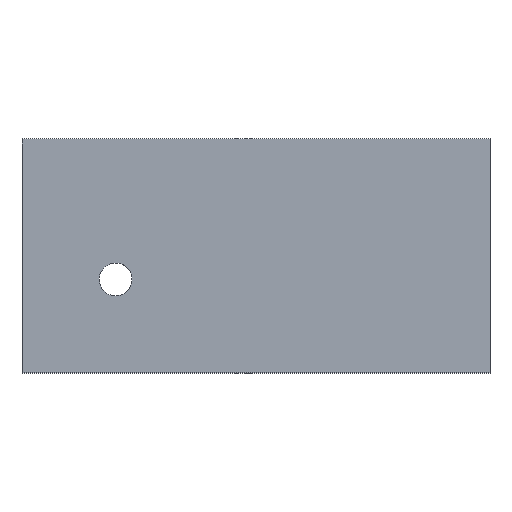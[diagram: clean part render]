
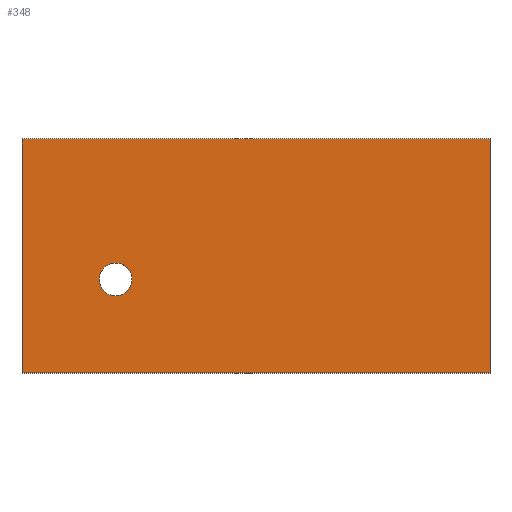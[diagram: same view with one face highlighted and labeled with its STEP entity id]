
A CAD part, top view. The second image highlights one B-rep face of the part: STEP entity #348.
In plain terms, the highlighted free-form (B-spline) face has degree [1, 1] with [2, 2] control points.
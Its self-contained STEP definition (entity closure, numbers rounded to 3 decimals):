
#42 = VERTEX_POINT('',#43);
#43 = CARTESIAN_POINT('',(0.,0.,10.));
#49 = B_SPLINE_SURFACE_WITH_KNOTS('',1,1,(
    (#50,#51)
    ,(#52,#53
    )),.UNSPECIFIED.,.F.,.F.,.F.,(2,2),(2,2),(0.,200.),(-10.,0.),
  .PIECEWISE_BEZIER_KNOTS.);
#50 = CARTESIAN_POINT('',(0.,0.,10.));
#51 = CARTESIAN_POINT('',(0.,0.,0.));
#52 = CARTESIAN_POINT('',(200.,0.,10.));
#53 = CARTESIAN_POINT('',(200.,0.,0.));
#60 = B_SPLINE_SURFACE_WITH_KNOTS('',1,1,(
    (#61,#62)
    ,(#63,#64
    )),.UNSPECIFIED.,.F.,.F.,.F.,(2,2),(2,2),(0.,100.),(-10.,0.),
  .PIECEWISE_BEZIER_KNOTS.);
#61 = CARTESIAN_POINT('',(0.,100.,10.));
#62 = CARTESIAN_POINT('',(0.,100.,0.));
#63 = CARTESIAN_POINT('',(0.,0.,10.));
#64 = CARTESIAN_POINT('',(0.,0.,0.));
#71 = EDGE_CURVE('',#42,#72,#74,.T.);
#72 = VERTEX_POINT('',#73);
#73 = CARTESIAN_POINT('',(200.,0.,10.));
#74 = SURFACE_CURVE('',#75,(#78,#84),.PCURVE_S1.);
#75 = B_SPLINE_CURVE_WITH_KNOTS('',1,(#76,#77),.UNSPECIFIED.,.F.,.F.,(2,
    2),(0.,200.),.PIECEWISE_BEZIER_KNOTS.);
#76 = CARTESIAN_POINT('',(0.,0.,10.));
#77 = CARTESIAN_POINT('',(200.,0.,10.));
#78 = PCURVE('',#49,#79);
#79 = DEFINITIONAL_REPRESENTATION('',(#80),#83);
#80 = B_SPLINE_CURVE_WITH_KNOTS('',1,(#81,#82),.UNSPECIFIED.,.F.,.F.,(2,
    2),(0.,200.),.PIECEWISE_BEZIER_KNOTS.);
#81 = CARTESIAN_POINT('',(0.,-10.));
#82 = CARTESIAN_POINT('',(200.,-10.));
#83 = ( GEOMETRIC_REPRESENTATION_CONTEXT(2) 
PARAMETRIC_REPRESENTATION_CONTEXT() REPRESENTATION_CONTEXT('2D SPACE',''
  ) );
#84 = PCURVE('',#85,#90);
#85 = B_SPLINE_SURFACE_WITH_KNOTS('',1,1,(
    (#86,#87)
    ,(#88,#89
    )),.UNSPECIFIED.,.F.,.F.,.F.,(2,2),(2,2),(-100.,100.),(-50.,50.),
  .PIECEWISE_BEZIER_KNOTS.);
#86 = CARTESIAN_POINT('',(0.,0.,10.));
#87 = CARTESIAN_POINT('',(0.,100.,10.));
#88 = CARTESIAN_POINT('',(200.,0.,10.));
#89 = CARTESIAN_POINT('',(200.,100.,10.));
#90 = DEFINITIONAL_REPRESENTATION('',(#91),#94);
#91 = B_SPLINE_CURVE_WITH_KNOTS('',1,(#92,#93),.UNSPECIFIED.,.F.,.F.,(2,
    2),(0.,200.),.PIECEWISE_BEZIER_KNOTS.);
#92 = CARTESIAN_POINT('',(-100.,-50.));
#93 = CARTESIAN_POINT('',(100.,-50.));
#94 = ( GEOMETRIC_REPRESENTATION_CONTEXT(2) 
PARAMETRIC_REPRESENTATION_CONTEXT() REPRESENTATION_CONTEXT('2D SPACE',''
  ) );
#110 = B_SPLINE_SURFACE_WITH_KNOTS('',1,1,(
    (#111,#112)
    ,(#113,#114
    )),.UNSPECIFIED.,.F.,.F.,.F.,(2,2),(2,2),(0.,100.),(-10.,0.),
  .PIECEWISE_BEZIER_KNOTS.);
#111 = CARTESIAN_POINT('',(200.,0.,10.));
#112 = CARTESIAN_POINT('',(200.,0.,0.));
#113 = CARTESIAN_POINT('',(200.,100.,10.));
#114 = CARTESIAN_POINT('',(200.,100.,0.));
#150 = VERTEX_POINT('',#151);
#151 = CARTESIAN_POINT('',(0.,100.,10.));
#163 = B_SPLINE_SURFACE_WITH_KNOTS('',1,1,(
    (#164,#165)
    ,(#166,#167
    )),.UNSPECIFIED.,.F.,.F.,.F.,(2,2),(2,2),(0.,200.),(-10.,0.),
  .PIECEWISE_BEZIER_KNOTS.);
#164 = CARTESIAN_POINT('',(200.,100.,10.));
#165 = CARTESIAN_POINT('',(200.,100.,0.));
#166 = CARTESIAN_POINT('',(0.,100.,10.));
#167 = CARTESIAN_POINT('',(0.,100.,0.));
#174 = EDGE_CURVE('',#150,#42,#175,.T.);
#175 = SURFACE_CURVE('',#176,(#179,#185),.PCURVE_S1.);
#176 = B_SPLINE_CURVE_WITH_KNOTS('',1,(#177,#178),.UNSPECIFIED.,.F.,.F.,
  (2,2),(0.,100.),.PIECEWISE_BEZIER_KNOTS.);
#177 = CARTESIAN_POINT('',(0.,100.,10.));
#178 = CARTESIAN_POINT('',(0.,0.,10.));
#179 = PCURVE('',#60,#180);
#180 = DEFINITIONAL_REPRESENTATION('',(#181),#184);
#181 = B_SPLINE_CURVE_WITH_KNOTS('',1,(#182,#183),.UNSPECIFIED.,.F.,.F.,
  (2,2),(0.,100.),.PIECEWISE_BEZIER_KNOTS.);
#182 = CARTESIAN_POINT('',(0.,-10.));
#183 = CARTESIAN_POINT('',(100.,-10.));
#184 = ( GEOMETRIC_REPRESENTATION_CONTEXT(2) 
PARAMETRIC_REPRESENTATION_CONTEXT() REPRESENTATION_CONTEXT('2D SPACE',''
  ) );
#185 = PCURVE('',#85,#186);
#186 = DEFINITIONAL_REPRESENTATION('',(#187),#190);
#187 = B_SPLINE_CURVE_WITH_KNOTS('',1,(#188,#189),.UNSPECIFIED.,.F.,.F.,
  (2,2),(0.,100.),.PIECEWISE_BEZIER_KNOTS.);
#188 = CARTESIAN_POINT('',(-100.,50.));
#189 = CARTESIAN_POINT('',(-100.,-50.));
#190 = ( GEOMETRIC_REPRESENTATION_CONTEXT(2) 
PARAMETRIC_REPRESENTATION_CONTEXT() REPRESENTATION_CONTEXT('2D SPACE',''
  ) );
#215 = EDGE_CURVE('',#72,#216,#218,.T.);
#216 = VERTEX_POINT('',#217);
#217 = CARTESIAN_POINT('',(200.,100.,10.));
#218 = SURFACE_CURVE('',#219,(#222,#228),.PCURVE_S1.);
#219 = B_SPLINE_CURVE_WITH_KNOTS('',1,(#220,#221),.UNSPECIFIED.,.F.,.F.,
  (2,2),(0.,100.),.PIECEWISE_BEZIER_KNOTS.);
#220 = CARTESIAN_POINT('',(200.,0.,10.));
#221 = CARTESIAN_POINT('',(200.,100.,10.));
#222 = PCURVE('',#110,#223);
#223 = DEFINITIONAL_REPRESENTATION('',(#224),#227);
#224 = B_SPLINE_CURVE_WITH_KNOTS('',1,(#225,#226),.UNSPECIFIED.,.F.,.F.,
  (2,2),(0.,100.),.PIECEWISE_BEZIER_KNOTS.);
#225 = CARTESIAN_POINT('',(0.,-10.));
#226 = CARTESIAN_POINT('',(100.,-10.));
#227 = ( GEOMETRIC_REPRESENTATION_CONTEXT(2) 
PARAMETRIC_REPRESENTATION_CONTEXT() REPRESENTATION_CONTEXT('2D SPACE',''
  ) );
#228 = PCURVE('',#85,#229);
#229 = DEFINITIONAL_REPRESENTATION('',(#230),#233);
#230 = B_SPLINE_CURVE_WITH_KNOTS('',1,(#231,#232),.UNSPECIFIED.,.F.,.F.,
  (2,2),(0.,100.),.PIECEWISE_BEZIER_KNOTS.);
#231 = CARTESIAN_POINT('',(100.,-50.));
#232 = CARTESIAN_POINT('',(100.,50.));
#233 = ( GEOMETRIC_REPRESENTATION_CONTEXT(2) 
PARAMETRIC_REPRESENTATION_CONTEXT() REPRESENTATION_CONTEXT('2D SPACE',''
  ) );
#323 = ( BOUNDED_SURFACE() B_SPLINE_SURFACE(2,1,(
    (#324,#325)
    ,(#326,#327)
    ,(#328,#329)
    ,(#330,#331)
    ,(#332,#333)
    ,(#334,#335)
,(#336,#337
    )),.UNSPECIFIED.,.T.,.F.,.F.) B_SPLINE_SURFACE_WITH_KNOTS((1,2,2,2,2
    ,1),(2,2),(-2.094,0.,2.094,4.189,
    6.283,8.378),(1.,11.),.UNSPECIFIED.) 
GEOMETRIC_REPRESENTATION_ITEM() RATIONAL_B_SPLINE_SURFACE((
    (1.,1.)
    ,(0.5,0.5)
    ,(1.,1.)
    ,(0.5,0.5)
    ,(1.,1.)
    ,(0.5,0.5)
,(1.,1.))) REPRESENTATION_ITEM('') SURFACE() );
#324 = CARTESIAN_POINT('',(47.,40.,0.));
#325 = CARTESIAN_POINT('',(47.,40.,10.));
#326 = CARTESIAN_POINT('',(47.,52.124,0.));
#327 = CARTESIAN_POINT('',(47.,52.124,10.));
#328 = CARTESIAN_POINT('',(36.5,46.062,0.));
#329 = CARTESIAN_POINT('',(36.5,46.062,10.));
#330 = CARTESIAN_POINT('',(26.,40.,0.));
#331 = CARTESIAN_POINT('',(26.,40.,10.));
#332 = CARTESIAN_POINT('',(36.5,33.938,0.));
#333 = CARTESIAN_POINT('',(36.5,33.938,10.));
#334 = CARTESIAN_POINT('',(47.,27.876,0.));
#335 = CARTESIAN_POINT('',(47.,27.876,10.));
#336 = CARTESIAN_POINT('',(47.,40.,0.));
#337 = CARTESIAN_POINT('',(47.,40.,10.));
#348 = ADVANCED_FACE('',(#349,#372),#85,.T.);
#349 = FACE_BOUND('',#350,.T.);
#350 = EDGE_LOOP('',(#351,#352,#353,#371));
#351 = ORIENTED_EDGE('',*,*,#71,.T.);
#352 = ORIENTED_EDGE('',*,*,#215,.T.);
#353 = ORIENTED_EDGE('',*,*,#354,.T.);
#354 = EDGE_CURVE('',#216,#150,#355,.T.);
#355 = SURFACE_CURVE('',#356,(#359,#365),.PCURVE_S1.);
#356 = B_SPLINE_CURVE_WITH_KNOTS('',1,(#357,#358),.UNSPECIFIED.,.F.,.F.,
  (2,2),(0.,200.),.PIECEWISE_BEZIER_KNOTS.);
#357 = CARTESIAN_POINT('',(200.,100.,10.));
#358 = CARTESIAN_POINT('',(0.,100.,10.));
#359 = PCURVE('',#85,#360);
#360 = DEFINITIONAL_REPRESENTATION('',(#361),#364);
#361 = B_SPLINE_CURVE_WITH_KNOTS('',1,(#362,#363),.UNSPECIFIED.,.F.,.F.,
  (2,2),(0.,200.),.PIECEWISE_BEZIER_KNOTS.);
#362 = CARTESIAN_POINT('',(100.,50.));
#363 = CARTESIAN_POINT('',(-100.,50.));
#364 = ( GEOMETRIC_REPRESENTATION_CONTEXT(2) 
PARAMETRIC_REPRESENTATION_CONTEXT() REPRESENTATION_CONTEXT('2D SPACE',''
  ) );
#365 = PCURVE('',#163,#366);
#366 = DEFINITIONAL_REPRESENTATION('',(#367),#370);
#367 = B_SPLINE_CURVE_WITH_KNOTS('',1,(#368,#369),.UNSPECIFIED.,.F.,.F.,
  (2,2),(0.,200.),.PIECEWISE_BEZIER_KNOTS.);
#368 = CARTESIAN_POINT('',(0.,-10.));
#369 = CARTESIAN_POINT('',(200.,-10.));
#370 = ( GEOMETRIC_REPRESENTATION_CONTEXT(2) 
PARAMETRIC_REPRESENTATION_CONTEXT() REPRESENTATION_CONTEXT('2D SPACE',''
  ) );
#371 = ORIENTED_EDGE('',*,*,#174,.T.);
#372 = FACE_BOUND('',#373,.T.);
#373 = EDGE_LOOP('',(#374));
#374 = ORIENTED_EDGE('',*,*,#375,.F.);
#375 = EDGE_CURVE('',#376,#376,#378,.T.);
#376 = VERTEX_POINT('',#377);
#377 = CARTESIAN_POINT('',(47.,40.,10.));
#378 = SURFACE_CURVE('',#379,(#387,#398),.PCURVE_S1.);
#379 = ( BOUNDED_CURVE() B_SPLINE_CURVE(2,(#380,#381,#382,#383,#384,#385
,#386),.UNSPECIFIED.,.T.,.F.) B_SPLINE_CURVE_WITH_KNOTS((1,2,2,2,2,1),(
    -2.094,0.,2.094,4.189,6.283,
8.378),.UNSPECIFIED.) CURVE() GEOMETRIC_REPRESENTATION_ITEM() 
RATIONAL_B_SPLINE_CURVE((1.,0.5,1.,0.5,1.,0.5,1.)) REPRESENTATION_ITEM(
  '') );
#380 = CARTESIAN_POINT('',(47.,40.,10.));
#381 = CARTESIAN_POINT('',(47.,52.124,10.));
#382 = CARTESIAN_POINT('',(36.5,46.062,10.));
#383 = CARTESIAN_POINT('',(26.,40.,10.));
#384 = CARTESIAN_POINT('',(36.5,33.938,10.));
#385 = CARTESIAN_POINT('',(47.,27.876,10.));
#386 = CARTESIAN_POINT('',(47.,40.,10.));
#387 = PCURVE('',#85,#388);
#388 = DEFINITIONAL_REPRESENTATION('',(#389),#397);
#389 = ( BOUNDED_CURVE() B_SPLINE_CURVE(2,(#390,#391,#392,#393,#394,#395
,#396),.UNSPECIFIED.,.T.,.F.) B_SPLINE_CURVE_WITH_KNOTS((3,2,2,3),(0.,
    2.094,4.189,6.283),
.PIECEWISE_BEZIER_KNOTS.) CURVE() GEOMETRIC_REPRESENTATION_ITEM() 
RATIONAL_B_SPLINE_CURVE((1.,0.5,1.,0.5,1.,0.5,1.)) REPRESENTATION_ITEM(
  '') );
#390 = CARTESIAN_POINT('',(-53.,-10.));
#391 = CARTESIAN_POINT('',(-53.,2.124));
#392 = CARTESIAN_POINT('',(-63.5,-3.938));
#393 = CARTESIAN_POINT('',(-74.,-10.));
#394 = CARTESIAN_POINT('',(-63.5,-16.062));
#395 = CARTESIAN_POINT('',(-53.,-22.124));
#396 = CARTESIAN_POINT('',(-53.,-10.));
#397 = ( GEOMETRIC_REPRESENTATION_CONTEXT(2) 
PARAMETRIC_REPRESENTATION_CONTEXT() REPRESENTATION_CONTEXT('2D SPACE',''
  ) );
#398 = PCURVE('',#323,#399);
#399 = DEFINITIONAL_REPRESENTATION('',(#400),#408);
#400 = B_SPLINE_CURVE_WITH_KNOTS('',2,(#401,#402,#403,#404,#405,#406,
    #407),.UNSPECIFIED.,.F.,.F.,(3,2,2,3),(0.,2.094,
    4.189,6.283),.PIECEWISE_BEZIER_KNOTS.);
#401 = CARTESIAN_POINT('',(0.,11.));
#402 = CARTESIAN_POINT('',(1.047,11.));
#403 = CARTESIAN_POINT('',(2.094,11.));
#404 = CARTESIAN_POINT('',(3.142,11.));
#405 = CARTESIAN_POINT('',(4.189,11.));
#406 = CARTESIAN_POINT('',(5.236,11.));
#407 = CARTESIAN_POINT('',(6.283,11.));
#408 = ( GEOMETRIC_REPRESENTATION_CONTEXT(2) 
PARAMETRIC_REPRESENTATION_CONTEXT() REPRESENTATION_CONTEXT('2D SPACE',''
  ) );
